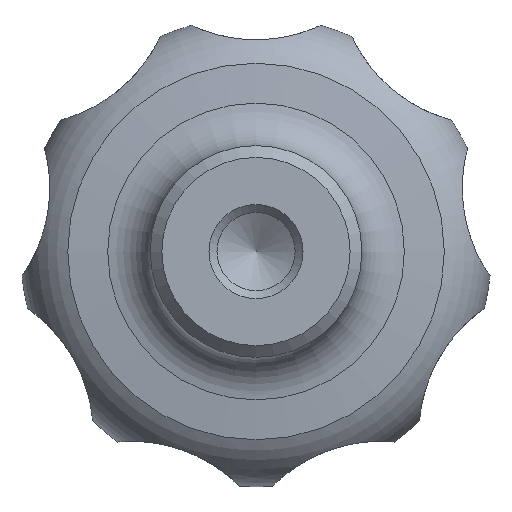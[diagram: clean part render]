
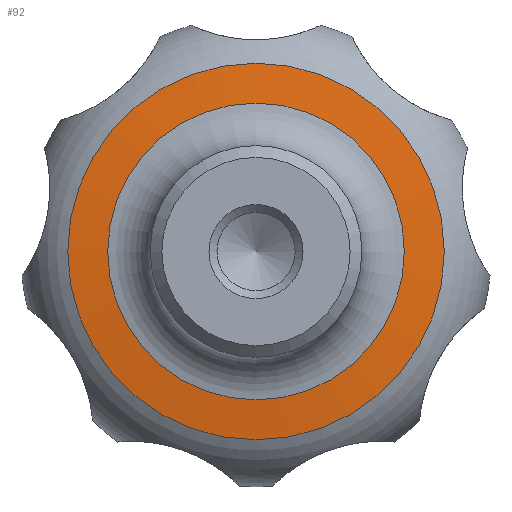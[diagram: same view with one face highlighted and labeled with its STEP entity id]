
A CAD part, front view. The second image highlights one B-rep face of the part: STEP entity #92.
In plain terms, the highlighted spherical face has radius 128.5 mm.
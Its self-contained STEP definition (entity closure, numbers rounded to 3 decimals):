
#92 = ADVANCED_FACE( '', ( #147, #148 ), #149, .T. );
#147 = FACE_OUTER_BOUND( '', #205, .T. );
#148 = FACE_OUTER_BOUND( '', #206, .T. );
#149 = SPHERICAL_SURFACE( '', #207, 128.5 );
#205 = EDGE_LOOP( '', ( #297 ) );
#206 = EDGE_LOOP( '', ( #298 ) );
#207 = AXIS2_PLACEMENT_3D( '', #299, #300, #301 );
#297 = ORIENTED_EDGE( '', *, *, #320, .T. );
#298 = ORIENTED_EDGE( '', *, *, #327, .F. );
#299 = CARTESIAN_POINT( '', ( 0., 143.5, 0. ) );
#300 = DIRECTION( '', ( 0., -1., 0. ) );
#301 = DIRECTION( '', ( 1., 0., 0. ) );
#320 = EDGE_CURVE( '', #350, #350, #351, .T. );
#327 = EDGE_CURVE( '', #362, #362, #363, .T. );
#350 = VERTEX_POINT( '', #1063 );
#351 = CIRCLE( '', #1064, 16. );
#362 = VERTEX_POINT( '', #1164 );
#363 = CIRCLE( '', #1165, 12.608 );
#1063 = CARTESIAN_POINT( '', ( 0., 16., -16. ) );
#1064 = AXIS2_PLACEMENT_3D( '', #1175, #1176, #1177 );
#1164 = CARTESIAN_POINT( '', ( 0., 15.62, -12.608 ) );
#1165 = AXIS2_PLACEMENT_3D( '', #1190, #1191, #1192 );
#1175 = CARTESIAN_POINT( '', ( 0., 16., 0. ) );
#1176 = DIRECTION( '', ( 0., -1., 0. ) );
#1177 = DIRECTION( '', ( 0., 0., -1. ) );
#1190 = CARTESIAN_POINT( '', ( 0., 15.62, 0. ) );
#1191 = DIRECTION( '', ( 0., -1., 0. ) );
#1192 = DIRECTION( '', ( 0., 0., -1. ) );
